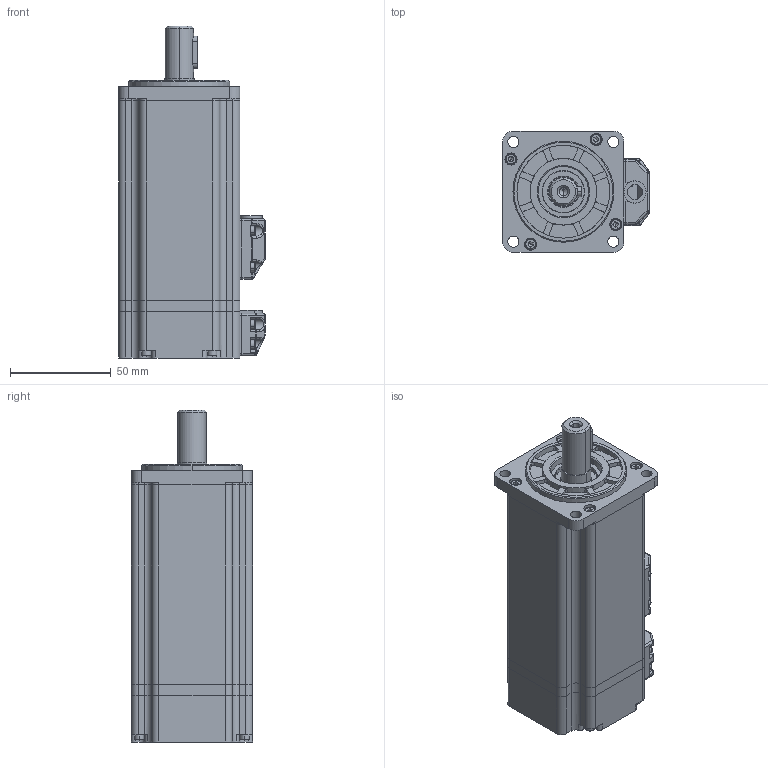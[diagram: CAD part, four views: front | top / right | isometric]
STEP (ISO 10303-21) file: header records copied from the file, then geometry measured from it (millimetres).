
FILE_DESCRIPTION (( 'STEP AP203' ), '1' );
FILE_NAME ('淕儂蚾饜.STEP', '2020-04-01T08:30:53', ( 'admin' ), ( '' ), 'SwSTEP 2.0', 'SolidWorks 2016', '' );
FILE_SCHEMA (( 'CONFIG_CONTROL_DESIGN' ));
Length unit declared in the file: millimetre
Products named in the file (1): 淕儂蚾饜
Bounding box: 72.5 x 60 x 164.5 mm (x, y, z)
Volume: 172035.3 mm3; surface area: 107414.3 mm2
Topology: 28 solids, 28 shells, 1587 faces, 4244 edges, 2654 vertices
Faces by surface type: cylinder 657, plane 592, cone 150, torus 94, sphere 70, bspline 24
Entity records: 52473 total; most frequent: CARTESIAN_POINT 12962, DIRECTION 8610, ORIENTED_EDGE 8128, EDGE_CURVE 4064, AXIS2_PLACEMENT_3D 3354, VERTEX_POINT 2590, VECTOR 1902, LINE 1902
